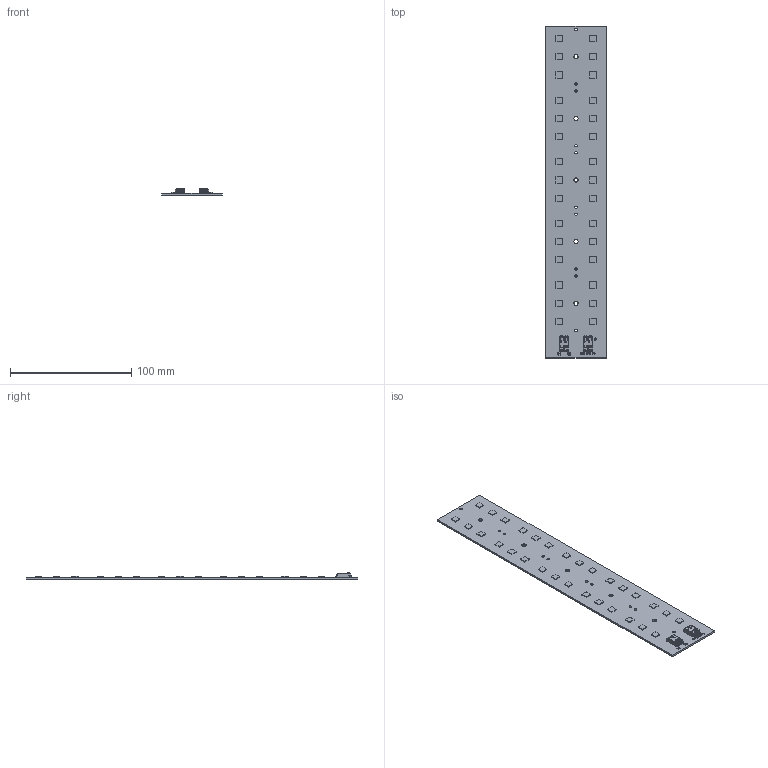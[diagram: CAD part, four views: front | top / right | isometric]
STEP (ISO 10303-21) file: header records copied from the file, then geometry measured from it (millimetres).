
FILE_DESCRIPTION(/* description */ ('Unknown'),/* implementation_level */ '2;1');
FILE_NAME(/* name */ 'recled 274x50mm 5x 2x3 5050 ntc sh-000 2025-03-03 q',/* time_stamp */ '2025-03-03T09:18:18+01:00',/* author */ ('Unknown'),/* organization */ ('Unknown'),/* preprocessor_version */ 'ST-DEVELOPER v18.102',/* originating_system */ 'Solid Edge',/* authorisation */ 'Unknown');
FILE_SCHEMA (('AUTOMOTIVE_DESIGN {1 0 10303 214 3 1 1}'));
Length unit declared in the file: millimetre
Products named in the file (1): recled 274x50mm 5x 2x3 5050 ntc  sh-000 2025-03-03 q
Bounding box: 49.5 x 273.8 x 4.95 mm (x, y, z)
Volume: 21230.3 mm3; surface area: 29222.1 mm2
Topology: 1 solids, 1 shells, 1154 faces, 2976 edges, 1868 vertices
Faces by surface type: plane 623, cylinder 264, torus 104, cone 88, bspline 55, sphere 20
Full cylindrical faces by diameter (mm): 2.1 x10, 3.5 x5
Entity records: 44516 total; most frequent: CARTESIAN_POINT 10247, ORIENTED_EDGE 5846, DIRECTION 4628, EDGE_CURVE 2923, VERTEX_POINT 1858, LINE 1612, VECTOR 1612, AXIS2_PLACEMENT_3D 1508
